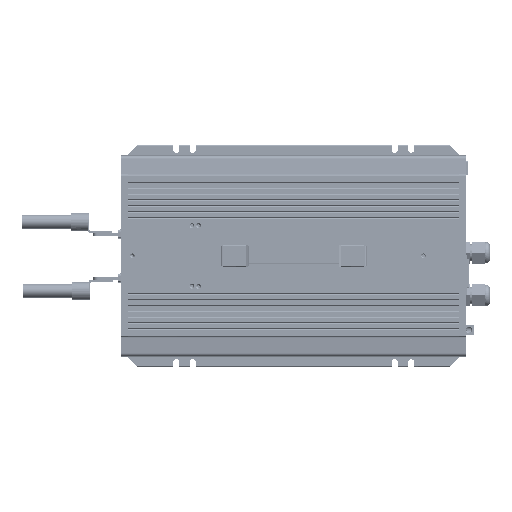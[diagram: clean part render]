
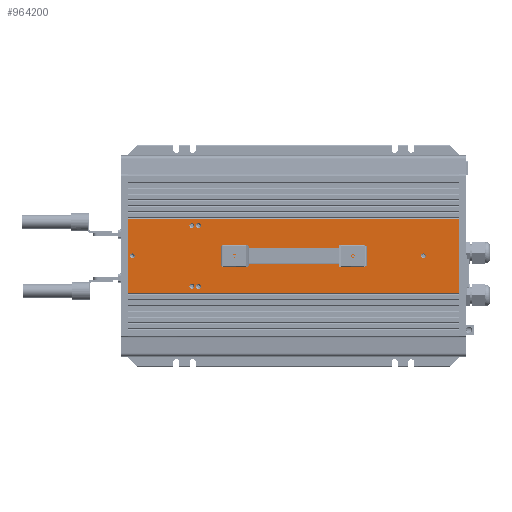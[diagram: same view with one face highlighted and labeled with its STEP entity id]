
A CAD part, top view. The second image highlights one B-rep face of the part: STEP entity #964200.
In plain terms, the highlighted planar face has unit normal (0, 0, 1) as drawn and (0, 1, 0) by its records, which use the part's own axes.
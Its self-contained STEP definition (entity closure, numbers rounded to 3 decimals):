
#941480=CARTESIAN_POINT('',(2078.449,98.104,-63.1));
#941490=VERTEX_POINT('',#941480);
#941520=CARTESIAN_POINT('',(1988.299,98.104,-63.1));
#941530=DIRECTION('',(1.,0.,0.));
#941540=VECTOR('',#941530,90.15);
#941550=LINE('',#941520,#941540);
#941560=CARTESIAN_POINT('',(1988.299,98.104,-63.1));
#941570=VERTEX_POINT('',#941560);
#941580=EDGE_CURVE('',#941570,#941490,#941550,.T.);
#950460=CARTESIAN_POINT('',(1988.299,98.104,340.9));
#950470=VERTEX_POINT('',#950460);
#950500=CARTESIAN_POINT('',(2078.449,98.104,340.9));
#950510=DIRECTION('',(-1.,0.,0.));
#950520=VECTOR('',#950510,90.15);
#950530=LINE('',#950500,#950520);
#950540=CARTESIAN_POINT('',(2078.449,98.104,340.9));
#950550=VERTEX_POINT('',#950540);
#950560=EDGE_CURVE('',#950550,#950470,#950530,.T.);
#962300=CARTESIAN_POINT('',(2030.374,98.104,296.9));
#962310=VERTEX_POINT('',#962300);
#962430=CARTESIAN_POINT('',(2036.374,98.104,296.9));
#962440=VERTEX_POINT('',#962430);
#962470=CARTESIAN_POINT('',(2033.374,98.104,296.9));
#962480=DIRECTION('',(0.,-1.,0.));
#962490=DIRECTION('',(1.,0.,0.));
#962500=AXIS2_PLACEMENT_3D('',#962470,#962480,#962490);
#962510=CIRCLE('',#962500,3.);
#962520=EDGE_CURVE('',#962440,#962310,#962510,.T.);
#962810=CARTESIAN_POINT('',(2028.721,98.104,122.9));
#962820=DIRECTION('',(0.,-1.,0.));
#962830=DIRECTION('',(1.,0.,0.));
#962840=AXIS2_PLACEMENT_3D('',#962810,#962820,#962830);
#962850=PLANE('',#962840);
#962860=CARTESIAN_POINT('',(2033.376,98.104,210.9));
#962870=DIRECTION('',(0.,1.,0.));
#962880=DIRECTION('',(0.,0.,1.));
#962890=AXIS2_PLACEMENT_3D('',#962860,#962870,#962880);
#962900=CIRCLE('',#962890,1.6);
#962910=CARTESIAN_POINT('',(2033.376,98.104,212.5));
#962920=VERTEX_POINT('',#962910);
#962930=CARTESIAN_POINT('',(2033.376,98.104,209.3));
#962940=VERTEX_POINT('',#962930);
#962950=EDGE_CURVE('',#962920,#962940,#962900,.T.);
#962960=ORIENTED_EDGE('',*,*,#962950,.F.);
#962970=EDGE_CURVE('',#962940,#962920,#962900,.T.);
#962980=ORIENTED_EDGE('',*,*,#962970,.F.);
#962990=EDGE_LOOP('',(#962980,#962960));
#963000=FACE_BOUND('',#962990,.T.);
#963010=CARTESIAN_POINT('',(1996.284,98.104,22.949)
);
#963020=DIRECTION('',(0.,1.,0.));
#963030=DIRECTION('',(1.,0.,0.));
#963040=AXIS2_PLACEMENT_3D('',#963010,#963020,#963030);
#963050=CIRCLE('',#963040,3.);
#963060=CARTESIAN_POINT('',(1996.284,98.104,19.949)
);
#963070=VERTEX_POINT('',#963060);
#963080=CARTESIAN_POINT('',(1993.284,98.104,22.949)
);
#963090=VERTEX_POINT('',#963080);
#963100=EDGE_CURVE('',#963070,#963090,#963050,.T.);
#963110=ORIENTED_EDGE('',*,*,#963100,.F.);
#963120=CARTESIAN_POINT('',(1999.284,98.104,22.949)
);
#963130=VERTEX_POINT('',#963120);
#963140=EDGE_CURVE('',#963090,#963130,#963050,.T.);
#963150=ORIENTED_EDGE('',*,*,#963140,.F.);
#963160=EDGE_CURVE('',#963130,#963070,#963050,.T.);
#963170=ORIENTED_EDGE('',*,*,#963160,.F.);
#963180=EDGE_LOOP('',(#963170,#963150,#963110));
#963190=FACE_BOUND('',#963180,.T.);
#963200=EDGE_CURVE('',#962310,#962440,#962510,.T.);
#963210=ORIENTED_EDGE('',*,*,#963200,.T.);
#963220=ORIENTED_EDGE('',*,*,#962520,.T.);
#963230=EDGE_LOOP('',(#963220,#963210));
#963240=FACE_BOUND('',#963230,.T.);
#963250=CARTESIAN_POINT('',(2033.376,98.104,-57.6));
#963260=DIRECTION('',(0.,-1.,0.));
#963270=DIRECTION('',(-1.,0.,0.));
#963280=AXIS2_PLACEMENT_3D('',#963250,#963260,#963270);
#963290=CIRCLE('',#963280,3.);
#963300=CARTESIAN_POINT('',(2030.376,98.104,
-57.6));
#963310=VERTEX_POINT('',#963300);
#963320=CARTESIAN_POINT('',(2036.376,98.104,
-57.6));
#963330=VERTEX_POINT('',#963320);
#963340=EDGE_CURVE('',#963310,#963330,#963290,.T.);
#963350=ORIENTED_EDGE('',*,*,#963340,.T.);
#963360=EDGE_CURVE('',#963330,#963310,#963290,.T.);
#963370=ORIENTED_EDGE('',*,*,#963360,.T.);
#963380=EDGE_LOOP('',(#963370,#963350));
#963390=FACE_BOUND('',#963380,.T.);
#963400=CARTESIAN_POINT('',(2070.318,98.104,14.949));
#963410=DIRECTION('',(0.,1.,0.));
#963420=DIRECTION('',(1.,0.,0.));
#963430=AXIS2_PLACEMENT_3D('',#963400,#963410,#963420);
#963440=CIRCLE('',#963430,3.);
#963450=CARTESIAN_POINT('',(2073.318,98.104,14.949));
#963460=VERTEX_POINT('',#963450);
#963470=CARTESIAN_POINT('',(2067.318,98.104,14.949));
#963480=VERTEX_POINT('',#963470);
#963490=EDGE_CURVE('',#963460,#963480,#963440,.T.);
#963500=ORIENTED_EDGE('',*,*,#963490,.F.);
#963510=EDGE_CURVE('',#963480,#963460,#963440,.T.);
#963520=ORIENTED_EDGE('',*,*,#963510,.F.);
#963530=EDGE_LOOP('',(#963520,#963500));
#963540=FACE_BOUND('',#963530,.T.);
#963550=CARTESIAN_POINT('',(1996.284,98.104,14.949)
);
#963560=DIRECTION('',(0.,1.,0.));
#963570=DIRECTION('',(1.,0.,0.));
#963580=AXIS2_PLACEMENT_3D('',#963550,#963560,#963570);
#963590=CIRCLE('',#963580,3.);
#963600=CARTESIAN_POINT('',(1995.513,98.104,12.05)
);
#963610=VERTEX_POINT('',#963600);
#963620=CARTESIAN_POINT('',(1993.284,98.104,14.949)
);
#963630=VERTEX_POINT('',#963620);
#963640=EDGE_CURVE('',#963610,#963630,#963590,.T.);
#963650=ORIENTED_EDGE('',*,*,#963640,.F.);
#963660=CARTESIAN_POINT('',(1999.284,98.104,14.949)
);
#963670=VERTEX_POINT('',#963660);
#963680=EDGE_CURVE('',#963630,#963670,#963590,.T.);
#963690=ORIENTED_EDGE('',*,*,#963680,.F.);
#963700=EDGE_CURVE('',#963670,#963610,#963590,.T.);
#963710=ORIENTED_EDGE('',*,*,#963700,.F.);
#963720=EDGE_LOOP('',(#963710,#963690,#963650));
#963730=FACE_BOUND('',#963720,.T.);
#963740=CARTESIAN_POINT('',(2070.318,98.104,22.949));
#963750=DIRECTION('',(0.,1.,0.));
#963760=DIRECTION('',(1.,0.,0.));
#963770=AXIS2_PLACEMENT_3D('',#963740,#963750,#963760);
#963780=CIRCLE('',#963770,3.);
#963790=CARTESIAN_POINT('',(2073.318,98.104,22.949));
#963800=VERTEX_POINT('',#963790);
#963810=CARTESIAN_POINT('',(2067.318,98.104,22.949));
#963820=VERTEX_POINT('',#963810);
#963830=EDGE_CURVE('',#963800,#963820,#963780,.T.);
#963840=ORIENTED_EDGE('',*,*,#963830,.F.);
#963850=EDGE_CURVE('',#963820,#963800,#963780,.T.);
#963860=ORIENTED_EDGE('',*,*,#963850,.F.);
#963870=EDGE_LOOP('',(#963860,#963840));
#963880=FACE_BOUND('',#963870,.T.);
#963890=CARTESIAN_POINT('',(2033.376,98.104,66.9));
#963900=DIRECTION('',(0.,1.,0.));
#963910=DIRECTION('',(0.,0.,1.));
#963920=AXIS2_PLACEMENT_3D('',#963890,#963900,#963910);
#963930=CIRCLE('',#963920,1.6);
#963940=CARTESIAN_POINT('',(2033.376,98.104,68.5));
#963950=VERTEX_POINT('',#963940);
#963960=CARTESIAN_POINT('',(2033.376,98.104,65.3));
#963970=VERTEX_POINT('',#963960);
#963980=EDGE_CURVE('',#963950,#963970,#963930,.T.);
#963990=ORIENTED_EDGE('',*,*,#963980,.F.);
#964000=EDGE_CURVE('',#963970,#963950,#963930,.T.);
#964010=ORIENTED_EDGE('',*,*,#964000,.F.);
#964020=EDGE_LOOP('',(#964010,#963990));
#964030=FACE_BOUND('',#964020,.T.);
#964040=ORIENTED_EDGE('',*,*,#941580,.F.);
#964050=CARTESIAN_POINT('',(2078.449,98.104,-63.1));
#964060=DIRECTION('',(0.,0.,1.));
#964070=VECTOR('',#964060,404.);
#964080=LINE('',#964050,#964070);
#964090=EDGE_CURVE('',#941490,#950550,#964080,.T.);
#964100=ORIENTED_EDGE('',*,*,#964090,.F.);
#964110=ORIENTED_EDGE('',*,*,#950560,.F.);
#964120=CARTESIAN_POINT('',(1988.299,98.104,340.9));
#964130=DIRECTION('',(0.,0.,-1.));
#964140=VECTOR('',#964130,404.);
#964150=LINE('',#964120,#964140);
#964160=EDGE_CURVE('',#950470,#941570,#964150,.T.);
#964170=ORIENTED_EDGE('',*,*,#964160,.F.);
#964180=EDGE_LOOP('',(#964170,#964110,#964100,#964040));
#964190=FACE_OUTER_BOUND('',#964180,.T.);
#964200=ADVANCED_FACE('',(#963000,#963190,#963240,#963390,#963540,
#963730,#963880,#964030,#964190),#962850,.F.);
